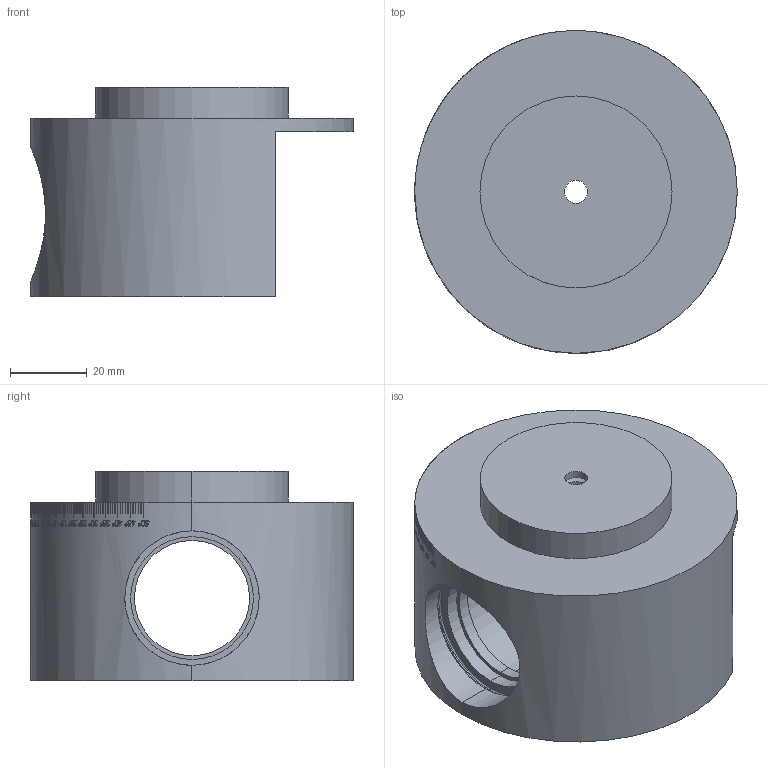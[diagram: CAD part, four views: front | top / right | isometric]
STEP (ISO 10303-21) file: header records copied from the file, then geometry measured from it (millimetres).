
FILE_DESCRIPTION (( 'STEP AP214' ), '1' );
FILE_NAME ('TPP_LS-01-02-001.STEP', '2021-10-26T12:01:25', ( '' ), ( '' ), 'SwSTEP 2.0', 'SolidWorks 2021', '' );
FILE_SCHEMA (( 'AUTOMOTIVE_DESIGN' ));
Length unit declared in the file: millimetre
Products named in the file (1): TPP_LS-01-02-001
Bounding box: 84 x 84 x 54.5 mm (x, y, z)
Volume: 140085.5 mm3; surface area: 28489.5 mm2
Topology: 1 solids, 1 shells, 959 faces, 2608 edges, 1726 vertices
Faces by surface type: bspline 389, plane 359, cylinder 191, cone 12, torus 8
Entity records: 62220 total; most frequent: CARTESIAN_POINT 40960, ORIENTED_EDGE 5200, DIRECTION 3067, EDGE_CURVE 2600, VERTEX_POINT 1726, B_SPLINE_CURVE_WITH_KNOTS 1218, AXIS2_PLACEMENT_3D 1116, EDGE_LOOP 1048
